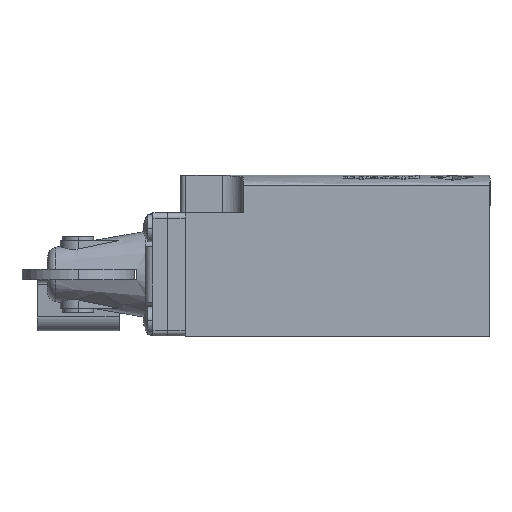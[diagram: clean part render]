
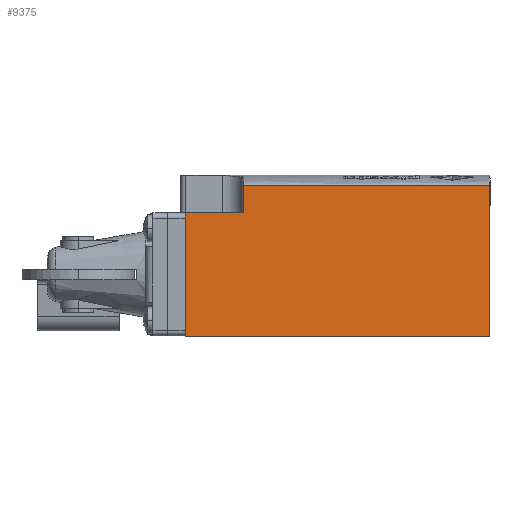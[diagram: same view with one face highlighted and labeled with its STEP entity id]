
A CAD part, left-side view. The second image highlights one B-rep face of the part: STEP entity #9375.
In plain terms, the highlighted planar face has unit normal (-1, 0, 0).
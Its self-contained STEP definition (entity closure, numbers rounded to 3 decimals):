
#701 = CARTESIAN_POINT ( 'NONE',  ( -15.6, -31.5, 19.4 ) ) ;
#763 = VERTEX_POINT ( 'NONE', #7237 ) ;
#1334 = DIRECTION ( 'NONE',  ( 0., -1., 0. ) ) ;
#2320 = EDGE_CURVE ( 'NONE', #763, #17158, #14179, .T. ) ;
#2594 = EDGE_CURVE ( 'NONE', #9741, #10023, #13589, .T. ) ;
#2843 = CARTESIAN_POINT ( 'NONE',  ( -15.6, 16.7, 12. ) ) ;
#3263 = VECTOR ( 'NONE', #11450, 1000. ) ;
#3281 = DIRECTION ( 'NONE',  ( 0., 0., -1. ) ) ;
#3706 = DIRECTION ( 'NONE',  ( 1., 0., 0. ) ) ;
#3841 = ORIENTED_EDGE ( 'NONE', *, *, #2594, .F. ) ;
#3967 = EDGE_CURVE ( 'NONE', #10023, #15832, #7096, .T. ) ;
#4784 = EDGE_CURVE ( 'NONE', #10709, #17158, #16830, .T. ) ;
#4896 = DIRECTION ( 'NONE',  ( 0., -1., 0. ) ) ;
#6453 = DIRECTION ( 'NONE',  ( 0., 0., -1. ) ) ;
#6545 = CARTESIAN_POINT ( 'NONE',  ( -15.6, -15.433, 17.4 ) ) ;
#7072 = CARTESIAN_POINT ( 'NONE',  ( -15.6, 28., 12. ) ) ;
#7096 = LINE ( 'NONE', #2843, #3263 ) ;
#7237 = CARTESIAN_POINT ( 'NONE',  ( -15.6, 28., -12.2 ) ) ;
#9227 = CARTESIAN_POINT ( 'NONE',  ( -15.6, 28., 19.4 ) ) ;
#9297 = CARTESIAN_POINT ( 'NONE',  ( -15.6, 16.7, 17.4 ) ) ;
#9375 = ADVANCED_FACE ( 'NONE', ( #16645 ), #12221, .F. ) ;
#9464 = DIRECTION ( 'NONE',  ( 0., 1., 0. ) ) ;
#9741 = VERTEX_POINT ( 'NONE', #7072 ) ;
#9764 = ORIENTED_EDGE ( 'NONE', *, *, #2320, .T. ) ;
#9827 = CARTESIAN_POINT ( 'NONE',  ( -15.6, -31.5, -12.2 ) ) ;
#10023 = VERTEX_POINT ( 'NONE', #13300 ) ;
#10110 = ORIENTED_EDGE ( 'NONE', *, *, #3967, .F. ) ;
#10270 = VECTOR ( 'NONE', #1334, 1000. ) ;
#10709 = VERTEX_POINT ( 'NONE', #13972 ) ;
#11392 = AXIS2_PLACEMENT_3D ( 'NONE', #17958, #3706, #9464 ) ;
#11450 = DIRECTION ( 'NONE',  ( 0., 0., 1. ) ) ;
#11640 = B_SPLINE_CURVE_WITH_KNOTS ( 'NONE', 3,
 ( #16932, #6545, #12323, #9297 ),
 .UNSPECIFIED., .F., .F.,
 ( 4, 4 ),
 ( 0., 1. ),
 .UNSPECIFIED. ) ;
#11782 = LINE ( 'NONE', #9227, #12013 ) ;
#11828 = ORIENTED_EDGE ( 'NONE', *, *, #4784, .F. ) ;
#12013 = VECTOR ( 'NONE', #3281, 1000. ) ;
#12089 = CARTESIAN_POINT ( 'NONE',  ( -15.6, 28., 12. ) ) ;
#12124 = EDGE_CURVE ( 'NONE', #9741, #763, #11782, .T. ) ;
#12221 = PLANE ( 'NONE',  #11392 ) ;
#12323 = CARTESIAN_POINT ( 'NONE',  ( -15.6, 0.633, 17.4 ) ) ;
#12985 = VECTOR ( 'NONE', #4896, 1000. ) ;
#13300 = CARTESIAN_POINT ( 'NONE',  ( -15.6, 16.7, 12. ) ) ;
#13589 = LINE ( 'NONE', #12089, #12985 ) ;
#13857 = ORIENTED_EDGE ( 'NONE', *, *, #12124, .T. ) ;
#13959 = EDGE_CURVE ( 'NONE', #10709, #15832, #11640, .T. ) ;
#13972 = CARTESIAN_POINT ( 'NONE',  ( -15.6, -31.5, 17.4 ) ) ;
#14179 = LINE ( 'NONE', #9827, #10270 ) ;
#15693 = EDGE_LOOP ( 'NONE', ( #11828, #16352, #10110, #3841, #13857, #9764 ) ) ;
#15832 = VERTEX_POINT ( 'NONE', #16768 ) ;
#16352 = ORIENTED_EDGE ( 'NONE', *, *, #13959, .T. ) ;
#16645 = FACE_OUTER_BOUND ( 'NONE', #15693, .T. ) ;
#16768 = CARTESIAN_POINT ( 'NONE',  ( -15.6, 16.7, 17.4 ) ) ;
#16830 = LINE ( 'NONE', #701, #18157 ) ;
#16932 = CARTESIAN_POINT ( 'NONE',  ( -15.6, -31.5, 17.4 ) ) ;
#17158 = VERTEX_POINT ( 'NONE', #17509 ) ;
#17509 = CARTESIAN_POINT ( 'NONE',  ( -15.6, -31.5, -12.2 ) ) ;
#17958 = CARTESIAN_POINT ( 'NONE',  ( -15.6, -31.5, 19.4 ) ) ;
#18157 = VECTOR ( 'NONE', #6453, 1000. ) ;
